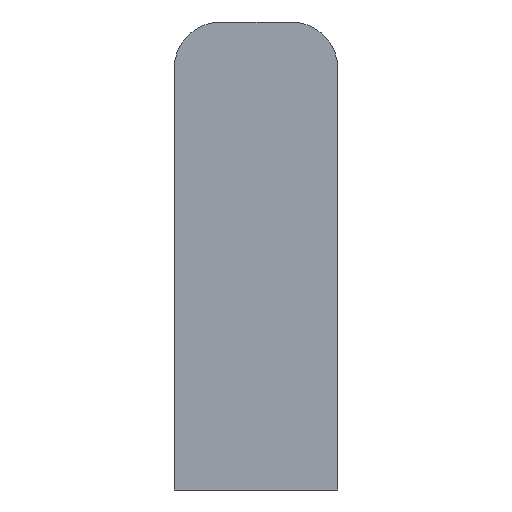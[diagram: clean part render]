
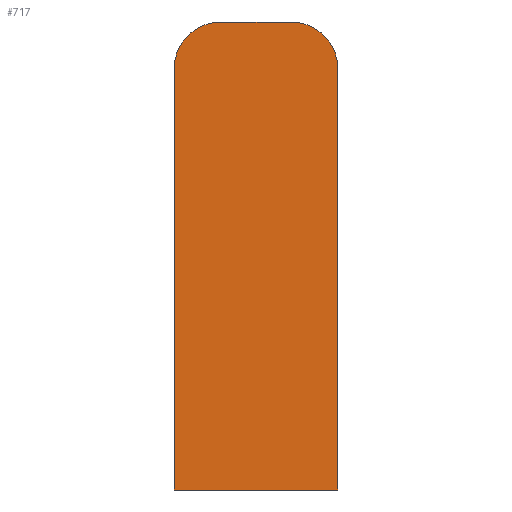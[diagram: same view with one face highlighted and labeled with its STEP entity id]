
A CAD part, front view. The second image highlights one B-rep face of the part: STEP entity #717.
In plain terms, the highlighted planar face has unit normal (0, -1, 0).
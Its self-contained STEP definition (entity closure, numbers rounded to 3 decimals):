
#5 = CIRCLE ( 'NONE', #628, 3. ) ;
#16 = VECTOR ( 'NONE', #309, 1000. ) ;
#17 = LINE ( 'NONE', #317, #20 ) ;
#20 = VECTOR ( 'NONE', #318, 1000. ) ;
#21 = LINE ( 'NONE', #298, #16 ) ;
#60 = LINE ( 'NONE', #350, #62 ) ;
#62 = VECTOR ( 'NONE', #358, 1000. ) ;
#66 = VECTOR ( 'NONE', #383, 1000. ) ;
#69 = LINE ( 'NONE', #382, #66 ) ;
#83 = CIRCLE ( 'NONE', #685, 3. ) ;
#111 = FACE_OUTER_BOUND ( 'NONE', #170, .T. ) ;
#170 = EDGE_LOOP ( 'NONE', ( #521, #541, #542, #520, #532, #518 ) ) ;
#199 = CARTESIAN_POINT ( 'NONE',  ( -5.25, 0., 10.5 ) ) ;
#205 = CARTESIAN_POINT ( 'NONE',  ( 2.25, 0., 13.5 ) ) ;
#206 = VERTEX_POINT ( 'NONE', #249 ) ;
#207 = VERTEX_POINT ( 'NONE', #250 ) ;
#208 = VERTEX_POINT ( 'NONE', #205 ) ;
#228 = VERTEX_POINT ( 'NONE', #277 ) ;
#231 = VERTEX_POINT ( 'NONE', #199 ) ;
#236 = VERTEX_POINT ( 'NONE', #270 ) ;
#249 = CARTESIAN_POINT ( 'NONE',  ( 5.25, 0., -16.5 ) ) ;
#250 = CARTESIAN_POINT ( 'NONE',  ( -2.25, 0., 13.5 ) ) ;
#270 = CARTESIAN_POINT ( 'NONE',  ( -5.25, 0., -16.5 ) ) ;
#277 = CARTESIAN_POINT ( 'NONE',  ( 5.25, 0., 10.5 ) ) ;
#280 = CARTESIAN_POINT ( 'NONE',  ( 2.25, 0., 10.5 ) ) ;
#283 = DIRECTION ( 'NONE',  ( 0., -1., 0. ) ) ;
#284 = DIRECTION ( 'NONE',  ( -1., 0., 0. ) ) ;
#298 = CARTESIAN_POINT ( 'NONE',  ( -5.25, 0., -16.5 ) ) ;
#309 = DIRECTION ( 'NONE',  ( 0., 0., -1. ) ) ;
#317 = CARTESIAN_POINT ( 'NONE',  ( 2.25, 0., 13.5 ) ) ;
#318 = DIRECTION ( 'NONE',  ( -1., 0., 0. ) ) ;
#350 = CARTESIAN_POINT ( 'NONE',  ( 5.25, 0., -16.5 ) ) ;
#358 = DIRECTION ( 'NONE',  ( 0., 0., 1. ) ) ;
#379 = CARTESIAN_POINT ( 'NONE',  ( -2.25, 0., 10.5 ) ) ;
#382 = CARTESIAN_POINT ( 'NONE',  ( 5.25, 0., -16.5 ) ) ;
#383 = DIRECTION ( 'NONE',  ( 1., 0., 0. ) ) ;
#389 = DIRECTION ( 'NONE',  ( 0., -1., 0. ) ) ;
#390 = DIRECTION ( 'NONE',  ( -1., 0., 0. ) ) ;
#431 = PLANE ( 'NONE',  #665 ) ;
#438 = CARTESIAN_POINT ( 'NONE',  ( 0., 0., -1.5 ) ) ;
#450 = DIRECTION ( 'NONE',  ( 0., 1., 0. ) ) ;
#451 = DIRECTION ( 'NONE',  ( -1., 0., 0. ) ) ;
#518 = ORIENTED_EDGE ( 'NONE', *, *, #681, .T. ) ;
#520 = ORIENTED_EDGE ( 'NONE', *, *, #694, .T. ) ;
#521 = ORIENTED_EDGE ( 'NONE', *, *, #672, .T. ) ;
#532 = ORIENTED_EDGE ( 'NONE', *, *, #616, .T. ) ;
#541 = ORIENTED_EDGE ( 'NONE', *, *, #605, .T. ) ;
#542 = ORIENTED_EDGE ( 'NONE', *, *, #620, .T. ) ;
#605 = EDGE_CURVE ( 'NONE', #228, #208, #5, .T. ) ;
#616 = EDGE_CURVE ( 'NONE', #231, #236, #21, .T. ) ;
#620 = EDGE_CURVE ( 'NONE', #208, #207, #17, .T. ) ;
#628 = AXIS2_PLACEMENT_3D ( 'NONE', #280, #283, #284 ) ;
#665 = AXIS2_PLACEMENT_3D ( 'NONE', #438, #450, #451 ) ;
#672 = EDGE_CURVE ( 'NONE', #206, #228, #60, .T. ) ;
#681 = EDGE_CURVE ( 'NONE', #236, #206, #69, .T. ) ;
#685 = AXIS2_PLACEMENT_3D ( 'NONE', #379, #389, #390 ) ;
#694 = EDGE_CURVE ( 'NONE', #207, #231, #83, .T. ) ;
#717 = ADVANCED_FACE ( 'NONE', ( #111 ), #431, .F. ) ;
